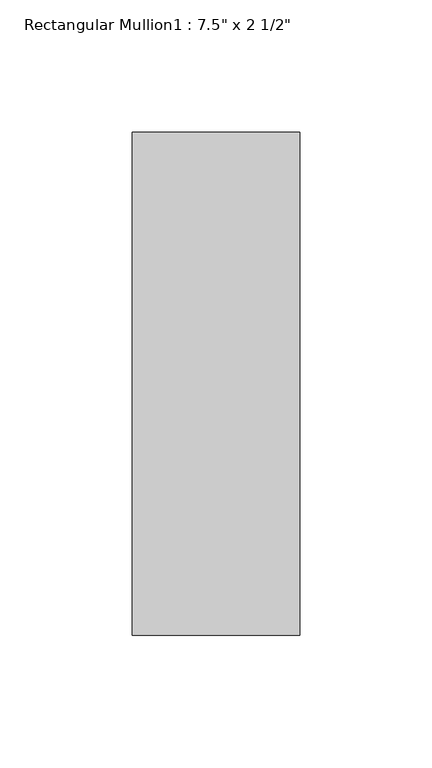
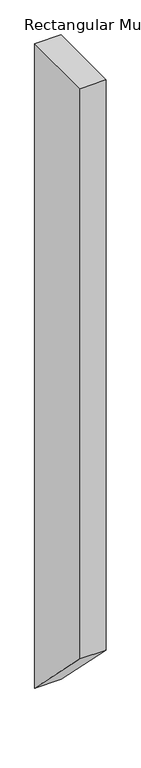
"""IFC4 building model written with IfcOpenShell, lengths in millimetres: member geometry."""

from ifc_helpers import new_model, si_unit, frame, origin, place, context, project, spatial, polyline, outline, extrude, source, transform, mapped, element, save


def member_ea08f1cc(model_context):
    return source(origin(), model_context, "Body", "SweptSolid", [
        extrude(outline(polyline([(-165.1, 0.0), (25.4, 0.0), (25.4, -1651.8033425), (-165.1, -1461.3033425), (-165.1, 0.0)])), frame((-63.5, 0.0, 0.0), z_axis=(1.0, 0.0, 0.0), x_axis=(0.0, 1.0, 0.0)), (0.0, 0.0, 1.0), 63.5),
    ])


if __name__ == "__main__":
    model = new_model("IFC4")
    model_context = context("Model", 3, world=origin())
    ifc_project = project(units=[si_unit("LENGTHUNIT", "METRE", prefix="MILLI")], contexts=[model_context])
    site = spatial("IfcSite", under=ifc_project)
    building = spatial("IfcBuilding", under=site)
    placement = place(None, origin())
    member_shape = member_ea08f1cc(model_context)
    element("IfcMember", 1, ObjectType="Rectangular Mullion1 : 7.5\" x 2 1/2\"", at=placement, inside=building, context=model_context, shape_type="MappedRepresentation", body=[
        mapped(member_shape, transform((0.0, 0.0, 0.0), x_axis=(1.0, 0.0, 0.0), y_axis=(0.0, 1.0, 0.0), z_axis=(0.0, 0.0, 1.0))),
    ])
    save(model, "model.ifc")
